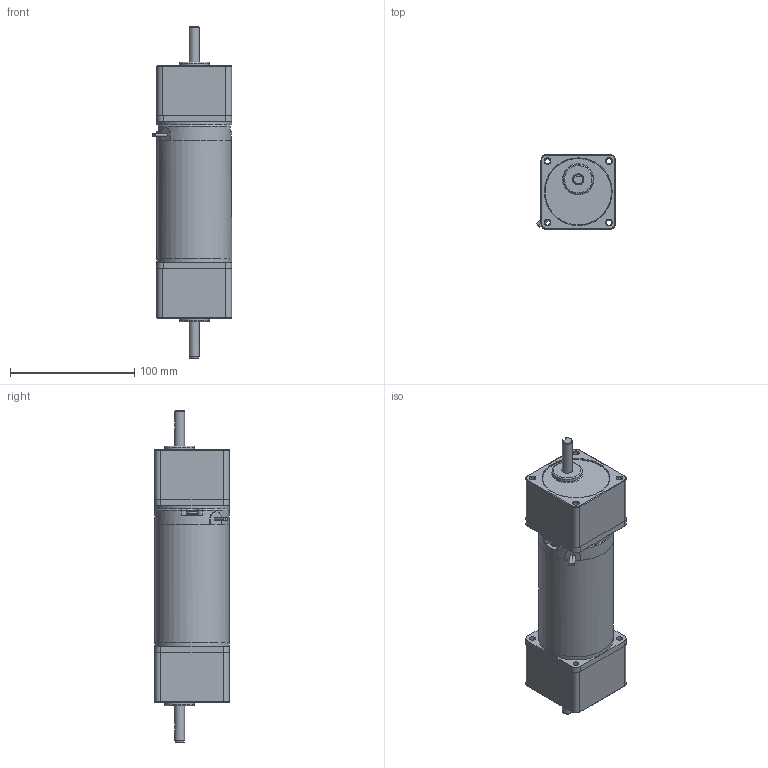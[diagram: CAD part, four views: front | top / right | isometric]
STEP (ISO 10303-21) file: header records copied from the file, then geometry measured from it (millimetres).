
FILE_DESCRIPTION((''),'2;1');
FILE_NAME('D:\yang\Yang cw\SPG 업무\2. DC MOTOR\7. DC MOTOR 브로슈어\DUAL GEAR-HEAD DC MOTOR\3D\STEP\S6D35-24A(OA80)- KEY.stp','2015-03-09T18:52:47',('ycw1227'),(''),'Autodesk Inventor 2013','Autodesk Inventor 2013','');
FILE_SCHEMA(('AUTOMOTIVE_DESIGN { 1 0 10303 214 1 1 1 1 }'));
Length unit declared in the file: millimetre
Products named in the file (1): 부품41
Bounding box: 63.59 x 60 x 267 mm (x, y, z)
Volume: 614827.6 mm3; surface area: 71244.1 mm2
Topology: 1 solids, 3 shells, 274 faces, 646 edges, 397 vertices
Faces by surface type: plane 112, cylinder 84, cone 42, torus 30, bspline 4, sphere 2
Full cylindrical faces by diameter (mm): 2.2 x2, 3.621 x2, 4 x2, 4.5 x18, 6 x2, 8 x2, 9 x4, 24 x2, 53.997 x2, 54 x2, 60 x4
Entity records: 8651 total; most frequent: CARTESIAN_POINT 2274, DIRECTION 1322, ORIENTED_EDGE 1154, EDGE_CURVE 577, AXIS2_PLACEMENT_3D 572, VERTEX_POINT 392, EDGE_LOOP 378, CIRCLE 277
